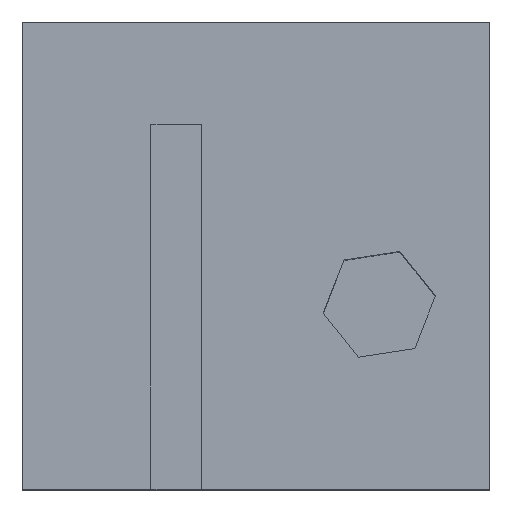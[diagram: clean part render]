
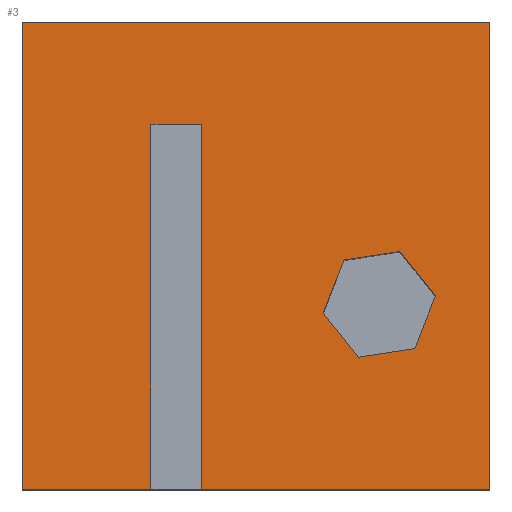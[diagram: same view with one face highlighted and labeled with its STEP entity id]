
A CAD part, top view. The second image highlights one B-rep face of the part: STEP entity #3.
In plain terms, the highlighted planar face has unit normal (0, 0, 1).
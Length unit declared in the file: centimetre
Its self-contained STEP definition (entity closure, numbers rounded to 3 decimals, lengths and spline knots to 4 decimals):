
#3 = ADVANCED_FACE ( 'NONE', ( #243, #25 ), #542, .T. ) ;
#8 = VECTOR ( 'NONE', #497, 100. ) ;
#16 = LINE ( 'NONE', #87, #537 ) ;
#23 = VECTOR ( 'NONE', #661, 100. ) ;
#25 = FACE_OUTER_BOUND ( 'NONE', #493, .T. ) ;
#43 = VERTEX_POINT ( 'NONE', #693 ) ;
#46 = VECTOR ( 'NONE', #360, 100. ) ;
#52 = LINE ( 'NONE', #525, #891 ) ;
#64 = DIRECTION ( 'NONE',  ( -1., 0., 0. ) ) ;
#72 = LINE ( 'NONE', #751, #462 ) ;
#74 = VECTOR ( 'NONE', #140, 100. ) ;
#78 = EDGE_CURVE ( 'NONE', #352, #354, #856, .T. ) ;
#87 = CARTESIAN_POINT ( 'NONE',  ( 807.8896, 508.8933, 1000. ) ) ;
#98 = CARTESIAN_POINT ( 'NONE',  ( 275.1141, 781.0811, 1000. ) ) ;
#101 = VERTEX_POINT ( 'NONE', #390 ) ;
#128 = VERTEX_POINT ( 'NONE', #347 ) ;
#137 = CARTESIAN_POINT ( 'NONE',  ( 0., 0., 1000. ) ) ;
#138 = CARTESIAN_POINT ( 'NONE',  ( 275.1141, 781.0811, 1000. ) ) ;
#140 = DIRECTION ( 'NONE',  ( 1., 0., 0. ) ) ;
#150 = ORIENTED_EDGE ( 'NONE', *, *, #391, .F. ) ;
#156 = CARTESIAN_POINT ( 'NONE',  ( 687.9181, 490.3712, 1000. ) ) ;
#159 = VECTOR ( 'NONE', #972, 100. ) ;
#163 = DIRECTION ( 'NONE',  ( 1., 0., 0. ) ) ;
#171 = DIRECTION ( 'NONE',  ( -0.988, -0.153, 0. ) ) ;
#175 = CARTESIAN_POINT ( 'NONE',  ( 643.9729, 377.2117, 1000. ) ) ;
#189 = CARTESIAN_POINT ( 'NONE',  ( 719.9994, 282.5743, 1000. ) ) ;
#191 = ORIENTED_EDGE ( 'NONE', *, *, #385, .F. ) ;
#206 = CARTESIAN_POINT ( 'NONE',  ( 839.971, 301.0965, 1000. ) ) ;
#218 = DIRECTION ( 'NONE',  ( 0.362, 0.932, 0. ) ) ;
#239 = VERTEX_POINT ( 'NONE', #780 ) ;
#243 = FACE_BOUND ( 'NONE', #255, .T. ) ;
#255 = EDGE_LOOP ( 'NONE', ( #787, #910, #470, #191, #640, #875 ) ) ;
#268 = EDGE_CURVE ( 'NONE', #128, #101, #282, .T. ) ;
#282 = LINE ( 'NONE', #138, #159 ) ;
#285 = LINE ( 'NONE', #883, #23 ) ;
#288 = DIRECTION ( 'NONE',  ( 0., -1., 0. ) ) ;
#294 = VECTOR ( 'NONE', #483, 100. ) ;
#295 = VECTOR ( 'NONE', #772, 100. ) ;
#300 = CARTESIAN_POINT ( 'NONE',  ( 839.971, 301.0965, 1000. ) ) ;
#307 = AXIS2_PLACEMENT_3D ( 'NONE', #539, #768, #163 ) ;
#316 = VERTEX_POINT ( 'NONE', #881 ) ;
#324 = CARTESIAN_POINT ( 'NONE',  ( 275.1141, 0., 1000. ) ) ;
#334 = ORIENTED_EDGE ( 'NONE', *, *, #764, .T. ) ;
#347 = CARTESIAN_POINT ( 'NONE',  ( 383.6598, 781.0811, 1000. ) ) ;
#350 = EDGE_CURVE ( 'NONE', #316, #722, #361, .T. ) ;
#352 = VERTEX_POINT ( 'NONE', #901 ) ;
#354 = VERTEX_POINT ( 'NONE', #366 ) ;
#360 = DIRECTION ( 'NONE',  ( 1., 0., 0. ) ) ;
#361 = LINE ( 'NONE', #966, #536 ) ;
#366 = CARTESIAN_POINT ( 'NONE',  ( 719.9994, 282.5743, 1000. ) ) ;
#368 = EDGE_CURVE ( 'NONE', #239, #416, #16, .T. ) ;
#375 = CARTESIAN_POINT ( 'NONE',  ( 1000., 1000., 1000. ) ) ;
#385 = EDGE_CURVE ( 'NONE', #416, #352, #609, .T. ) ;
#390 = CARTESIAN_POINT ( 'NONE',  ( 275.1141, 781.0811, 1000. ) ) ;
#391 = EDGE_CURVE ( 'NONE', #101, #953, #855, .T. ) ;
#416 = VERTEX_POINT ( 'NONE', #916 ) ;
#422 = VERTEX_POINT ( 'NONE', #704 ) ;
#430 = VERTEX_POINT ( 'NONE', #923 ) ;
#445 = DIRECTION ( 'NONE',  ( 0., 1., 0. ) ) ;
#462 = VECTOR ( 'NONE', #899, 100. ) ;
#470 = ORIENTED_EDGE ( 'NONE', *, *, #78, .F. ) ;
#471 = VECTOR ( 'NONE', #64, 100. ) ;
#483 = DIRECTION ( 'NONE',  ( 0.626, -0.78, 0. ) ) ;
#493 = EDGE_LOOP ( 'NONE', ( #150, #628, #561, #882, #793, #866, #802, #334 ) ) ;
#497 = DIRECTION ( 'NONE',  ( 0.988, 0.153, 0. ) ) ;
#521 = LINE ( 'NONE', #137, #46 ) ;
#525 = CARTESIAN_POINT ( 'NONE',  ( 383.6598, 781.0811, 1000. ) ) ;
#536 = VECTOR ( 'NONE', #445, 100. ) ;
#537 = VECTOR ( 'NONE', #171, 100. ) ;
#539 = CARTESIAN_POINT ( 'NONE',  ( 0., 0., 1000. ) ) ;
#542 = PLANE ( 'NONE',  #307 ) ;
#561 = ORIENTED_EDGE ( 'NONE', *, *, #831, .T. ) ;
#573 = EDGE_CURVE ( 'NONE', #853, #239, #285, .T. ) ;
#589 = CARTESIAN_POINT ( 'NONE',  ( 0., 1000., 1000. ) ) ;
#596 = VECTOR ( 'NONE', #928, 100. ) ;
#609 = LINE ( 'NONE', #156, #596 ) ;
#617 = EDGE_CURVE ( 'NONE', #354, #820, #868, .T. ) ;
#628 = ORIENTED_EDGE ( 'NONE', *, *, #268, .F. ) ;
#632 = VECTOR ( 'NONE', #218, 100. ) ;
#640 = ORIENTED_EDGE ( 'NONE', *, *, #368, .F. ) ;
#661 = DIRECTION ( 'NONE',  ( -0.626, 0.78, 0. ) ) ;
#684 = EDGE_CURVE ( 'NONE', #43, #316, #818, .T. ) ;
#685 = CARTESIAN_POINT ( 'NONE',  ( 0., 0., 1000. ) ) ;
#693 = CARTESIAN_POINT ( 'NONE',  ( 383.6598, 0., 1000. ) ) ;
#704 = CARTESIAN_POINT ( 'NONE',  ( 0., 0., 1000. ) ) ;
#722 = VERTEX_POINT ( 'NONE', #375 ) ;
#725 = EDGE_CURVE ( 'NONE', #722, #430, #885, .T. ) ;
#751 = CARTESIAN_POINT ( 'NONE',  ( 0., 1000., 1000. ) ) ;
#754 = EDGE_CURVE ( 'NONE', #820, #853, #964, .T. ) ;
#764 = EDGE_CURVE ( 'NONE', #422, #953, #521, .T. ) ;
#768 = DIRECTION ( 'NONE',  ( 0., 0., 1. ) ) ;
#772 = DIRECTION ( 'NONE',  ( 0., -1., 0. ) ) ;
#780 = CARTESIAN_POINT ( 'NONE',  ( 807.8896, 508.8933, 1000. ) ) ;
#787 = ORIENTED_EDGE ( 'NONE', *, *, #754, .F. ) ;
#793 = ORIENTED_EDGE ( 'NONE', *, *, #350, .T. ) ;
#802 = ORIENTED_EDGE ( 'NONE', *, *, #842, .T. ) ;
#808 = CARTESIAN_POINT ( 'NONE',  ( 883.9161, 414.256, 1000. ) ) ;
#818 = LINE ( 'NONE', #685, #74 ) ;
#820 = VERTEX_POINT ( 'NONE', #206 ) ;
#831 = EDGE_CURVE ( 'NONE', #128, #43, #52, .T. ) ;
#842 = EDGE_CURVE ( 'NONE', #430, #422, #72, .T. ) ;
#853 = VERTEX_POINT ( 'NONE', #808 ) ;
#855 = LINE ( 'NONE', #98, #295 ) ;
#856 = LINE ( 'NONE', #175, #294 ) ;
#866 = ORIENTED_EDGE ( 'NONE', *, *, #725, .T. ) ;
#868 = LINE ( 'NONE', #189, #8 ) ;
#875 = ORIENTED_EDGE ( 'NONE', *, *, #573, .F. ) ;
#881 = CARTESIAN_POINT ( 'NONE',  ( 1000., 0., 1000. ) ) ;
#882 = ORIENTED_EDGE ( 'NONE', *, *, #684, .T. ) ;
#883 = CARTESIAN_POINT ( 'NONE',  ( 883.9161, 414.256, 1000. ) ) ;
#885 = LINE ( 'NONE', #589, #471 ) ;
#891 = VECTOR ( 'NONE', #288, 100. ) ;
#899 = DIRECTION ( 'NONE',  ( 0., -1., 0. ) ) ;
#901 = CARTESIAN_POINT ( 'NONE',  ( 643.9729, 377.2117, 1000. ) ) ;
#910 = ORIENTED_EDGE ( 'NONE', *, *, #617, .F. ) ;
#916 = CARTESIAN_POINT ( 'NONE',  ( 687.9181, 490.3712, 1000. ) ) ;
#923 = CARTESIAN_POINT ( 'NONE',  ( 0., 1000., 1000. ) ) ;
#928 = DIRECTION ( 'NONE',  ( -0.362, -0.932, 0. ) ) ;
#953 = VERTEX_POINT ( 'NONE', #324 ) ;
#964 = LINE ( 'NONE', #300, #632 ) ;
#966 = CARTESIAN_POINT ( 'NONE',  ( 1000., 1000., 1000. ) ) ;
#972 = DIRECTION ( 'NONE',  ( -1., 0., 0. ) ) ;
